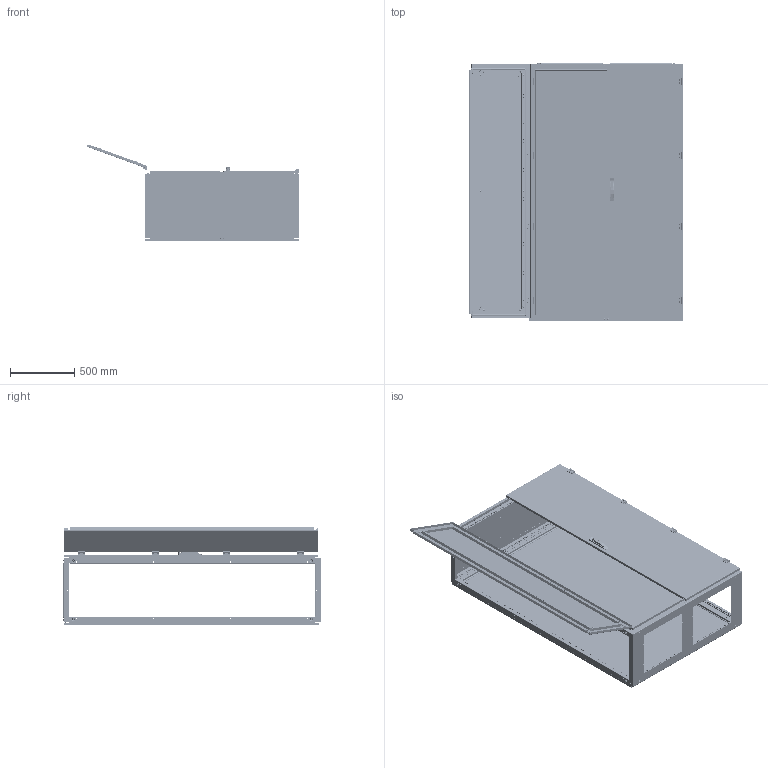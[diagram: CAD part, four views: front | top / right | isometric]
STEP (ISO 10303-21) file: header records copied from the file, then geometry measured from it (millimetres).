
FILE_DESCRIPTION (( 'STEP AP214' ), '1' );
FILE_NAME ('QA201205.step', '2011-08-11T11:42:25', ( 'Radek Veselý' ), ( 'Siemens and Partners' ), 'SwSTEP 2.0', 'SolidWorks 2006303', '' );
FILE_SCHEMA (( 'AUTOMOTIVE_DESIGN' ));
Length unit declared in the file: millimetre
Products named in the file (1): QA201205
Bounding box: 1668.78 x 2004.5 x 762.7 mm (x, y, z)
Volume: 15567552.2 mm3; surface area: 18079980.7 mm2
Topology: 158 solids, 158 shells, 9207 faces, 25520 edges, 16608 vertices
Faces by surface type: plane 4586, cylinder 3831, cone 474, bspline 268, torus 48
Entity records: 386067 total; most frequent: CARTESIAN_POINT 68593, DIRECTION 50730, ORIENTED_EDGE 50384, EDGE_CURVE 25192, AXIS2_PLACEMENT_3D 17227, VERTEX_POINT 16608, LINE 16276, VECTOR 16276
